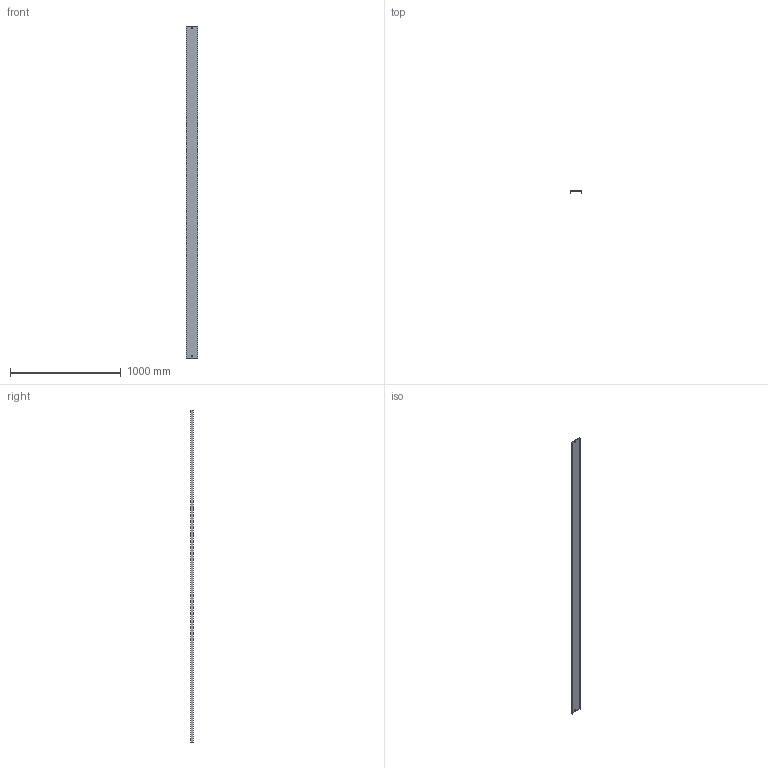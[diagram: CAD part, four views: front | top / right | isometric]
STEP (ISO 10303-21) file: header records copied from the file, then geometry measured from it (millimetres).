
FILE_DESCRIPTION (( 'STEP AP214' ), '1' );
FILE_NAME ('05N3R100.step', '2025-02-21T12:39:03', ( '' ), ( '' ), 'SwSTEP 2.0', 'SolidWorks 2023', '' );
FILE_SCHEMA (( 'AUTOMOTIVE_DESIGN' ));
Length unit declared in the file: millimetre
Products named in the file (1): 05N3R100
Bounding box: 103 x 20 x 3000 mm (x, y, z)
Volume: 629824.5 mm3; surface area: 849279 mm2
Topology: 1 solids, 1 shells, 18 faces, 48 edges, 32 vertices
Faces by surface type: plane 18
Entity records: 583 total; most frequent: CARTESIAN_POINT 99, ORIENTED_EDGE 96, DIRECTION 86, EDGE_CURVE 48, LINE 48, VECTOR 48, VERTEX_POINT 32, EDGE_LOOP 22
